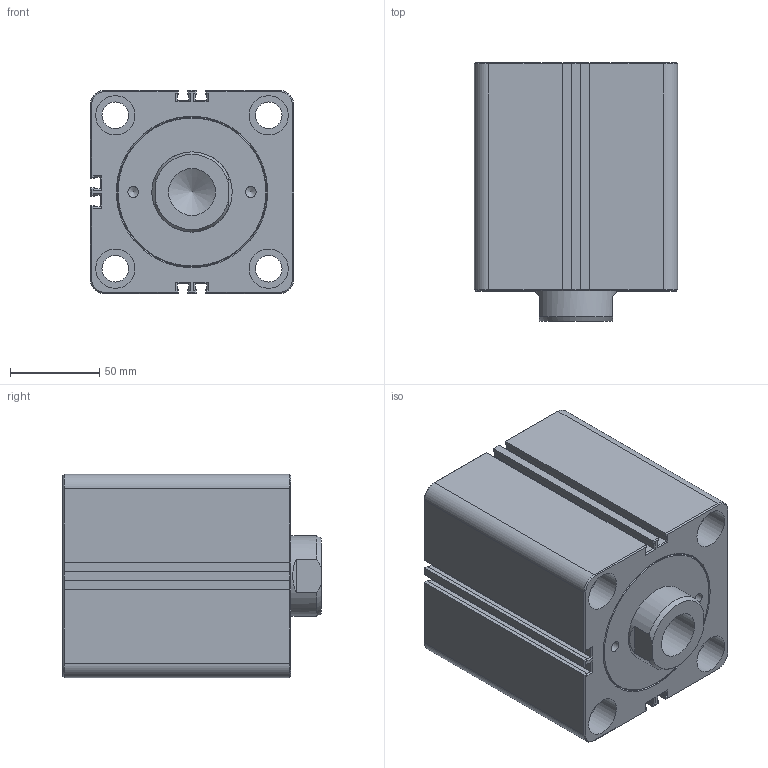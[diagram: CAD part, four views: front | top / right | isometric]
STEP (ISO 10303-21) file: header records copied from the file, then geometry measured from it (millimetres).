
FILE_DESCRIPTION(/* description */ ('Unknown'),/* implementation_level */ '2;1');
FILE_NAME(/* name */ 'HTM70-SDMB80X50N',/* time_stamp */ '2022-08-31T05:48:46+08:00',/* author */ ('Unknown'),/* organization */ ('Unknown'),/* preprocessor_version */ 'ST-DEVELOPER v16.7',/* originating_system */ 'DEX',/* authorisation */ $);
FILE_SCHEMA (('AUTOMOTIVE_DESIGN {1 0 10303 214 3 1 1}'));
Length unit declared in the file: millimetre
Products named in the file (1): HTM70-SDMB80X50N
Bounding box: 114 x 145 x 114 mm (x, y, z)
Volume: 1515192.2 mm3; surface area: 126119.7 mm2
Topology: 1 solids, 1 shells, 281 faces, 635 edges, 374 vertices
Faces by surface type: plane 180, cone 38, bspline 36, cylinder 27
Full cylindrical faces by diameter (mm): 6 x1, 6.1 x2, 7 x2, 15 x6, 16.5 x2, 22 x8, 26.211 x1, 45 x1
Entity records: 9649 total; most frequent: CARTESIAN_POINT 1869, ORIENTED_EDGE 1162, DIRECTION 1100, EDGE_CURVE 581, LINE 402, VECTOR 402, VERTEX_POINT 358, AXIS2_PLACEMENT_3D 349
